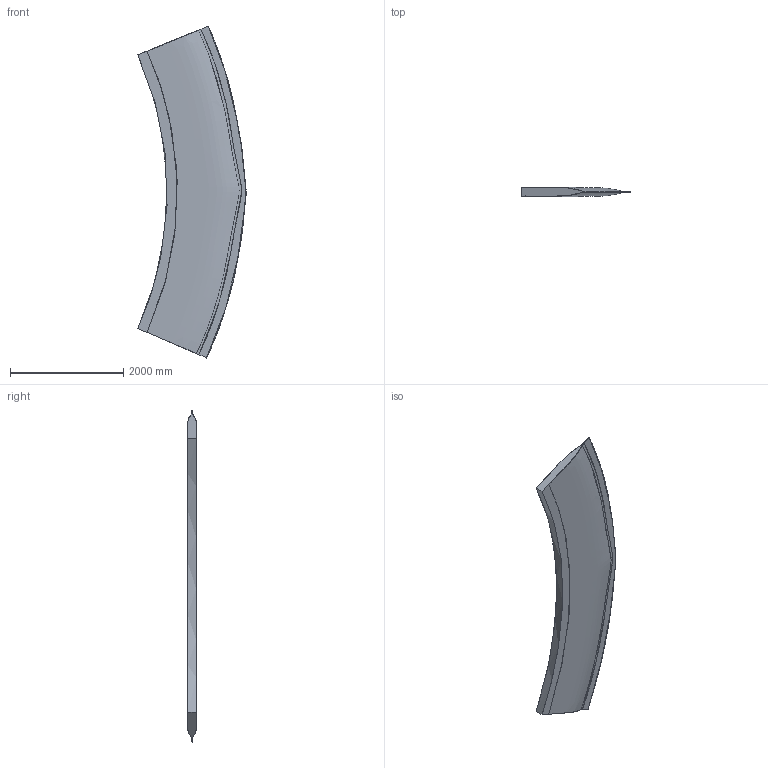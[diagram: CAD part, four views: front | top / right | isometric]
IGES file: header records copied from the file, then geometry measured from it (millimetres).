
Global section: file name: Z:\prj2.1\wind_tunnels\NTF\outgoing\geometry\Rumsey\NTF_Arc_Sector_2024_10_10\NTF_arc_sector_aft_fixed.igs; native system: NX V12.0; preprocessor: SIEMENS PLM Software NX 12.0; date: 20241010.121149; units: inch
Bounding box: 1916.13 x 154.92 x 5869.44 mm (x, y, z)
Surface area: 16079062.5 mm2 (no closed solid volume)
Topology: 0 solids, 0 shells, 13 faces, 603 edges, 603 vertices
Faces by surface type: bspline 13
